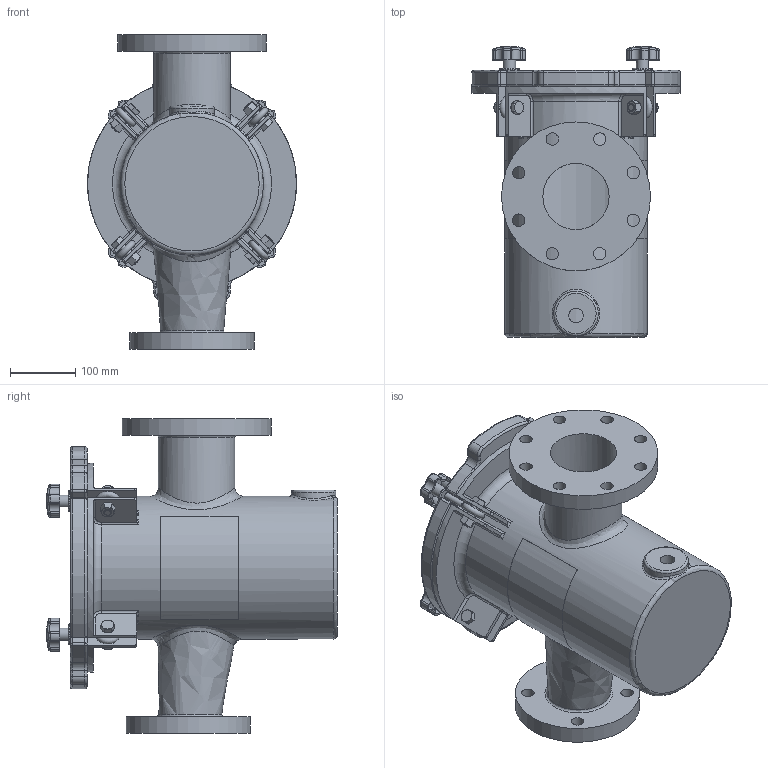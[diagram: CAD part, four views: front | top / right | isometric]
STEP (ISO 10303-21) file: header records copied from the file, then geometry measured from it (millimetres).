
FILE_DESCRIPTION(/* description */ ('STRAINER BODY'),/* implementation_level */ '2;1');
FILE_NAME(/* name */ '\\chntshnas1\IP_PUMPS\NeptuneBenson\Project Execution\WIP\Ready for delivery - Do not Disturb -Updated with metric Flange\Workspace\FG Reducing Strainer\150NBFG43ER1.stp',/* time_stamp */ '2016-10-19T11:54:32+05:00',/* author */ ('20076253'),/* organization */ (''),/* preprocessor_version */ 'ST-DEVELOPER v16.1',/* originating_system */ 'Autodesk Inventor 2016',/* authorisation */ '');
FILE_SCHEMA (('AUTOMOTIVE_DESIGN { 1 0 10303 214 3 1 1 }'));
Length unit declared in the file: inch
Products named in the file (18): NBFG43EBODYR1; 150NBCVR13R1; 150NBGSK08R1; Perforated Basket 8in; Bride (Ring) 8in; Baffle 8in; Handle 8in; Bottom Strainer 8in; NBBSK04T316; Nut- 1_2  UNC; Bolt-1_2 x 1 1_2  UNC; EyeBolt; Washer; Knob M10; Securing Assembly For FG without Brace; Label for 8.625 inch (Right)_FG; Label for 8.625 inch (Left)_FG; Guardian FG Reducing H&L Strainer (Inch)
Assembly tree (20 placements, depth 3):
  Guardian FG Reducing H&L Strainer (Inch)
    NBFG43EBODYR1
    150NBCVR13R1
    150NBGSK08R1
    NBBSK04T316
      Perforated Basket 8in
      Bride (Ring) 8in
      Baffle 8in
      Handle 8in
      Bottom Strainer 8in
    Securing Assembly For FG without Brace  x4
      Nut- 1_2  UNC
      Bolt-1_2 x 1 1_2  UNC
      EyeBolt
      Washer
      Knob M10
    Label for 8.625 inch (Right)_FG
    Label for 8.625 inch (Left)_FG
Bounding box: 320.68 x 446.18 x 482.6 mm (x, y, z)
Volume: 7452513.7 mm3; surface area: 1771232.5 mm2
Topology: 30 solids, 30 shells, 920 faces, 2125 edges, 1264 vertices
Faces by surface type: cylinder 337, plane 248, torus 93, cone 92, bspline 82, sphere 68
Full cylindrical faces by diameter (mm): 3.175 x10, 6.35 x2, 8.382 x4, 9.525 x8, 10.592 x4, 12.7 x4, 15.875 x8, 19 x8, 19.05 x16, 22.809 x1, 31.75 x4, 68.263 x1, 101.6 x1, 117.475 x1, 142.875 x2, 146.05 x1, 148.59 x1, 190.5 x1, 203.2 x2, 212.725 x1, 219.075 x1, 222.25 x1, 228.6 x1, 257.175 x1, 263.525 x1
Entity records: 20593 total; most frequent: CARTESIAN_POINT 7274, DIRECTION 2763, ORIENTED_EDGE 2480, EDGE_CURVE 1240, AXIS2_PLACEMENT_3D 1165, VERTEX_POINT 792, EDGE_LOOP 722, CIRCLE 573
